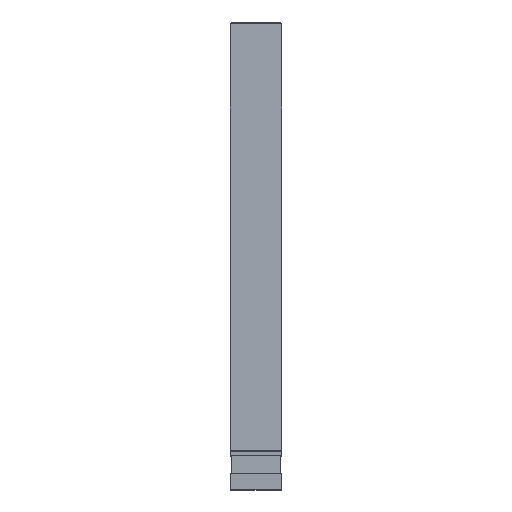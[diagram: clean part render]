
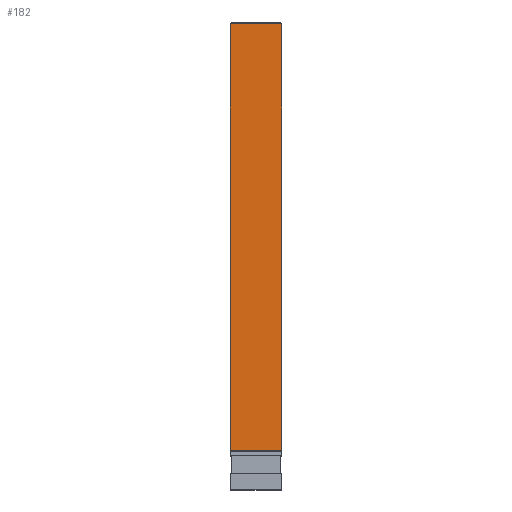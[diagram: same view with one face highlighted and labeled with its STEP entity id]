
A CAD part, left-side view. The second image highlights one B-rep face of the part: STEP entity #182.
In plain terms, the highlighted planar face has unit normal (-1, 0, 0.009).
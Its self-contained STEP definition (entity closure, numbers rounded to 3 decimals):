
#23=DIRECTION('',(0.009,0.,1.));
#24=VECTOR('',#23,910.);
#25=CARTESIAN_POINT('',(-5.407,0.5,-631.37));
#26=LINE('',#25,#24);
#27=DIRECTION('',(0.,-1.,0.));
#28=VECTOR('',#27,109.);
#29=CARTESIAN_POINT('',(2.383,109.5,278.596));
#30=LINE('',#29,#28);
#31=DIRECTION('',(0.,1.,0.));
#32=VECTOR('',#31,109.);
#33=CARTESIAN_POINT('',(-5.407,0.5,-631.37));
#34=LINE('',#33,#32);
#40=DIRECTION('',(-0.009,0.,-1.));
#41=VECTOR('',#40,910.);
#42=CARTESIAN_POINT('',(2.383,109.5,278.596));
#43=LINE('',#42,#41);
#113=CARTESIAN_POINT('',(2.383,0.5,278.596));
#114=VERTEX_POINT('',#113);
#115=CARTESIAN_POINT('',(-5.407,0.5,
-631.37));
#116=VERTEX_POINT('',#115);
#117=CARTESIAN_POINT('',(2.383,109.5,278.596));
#118=VERTEX_POINT('',#117);
#119=CARTESIAN_POINT('',(-5.407,109.5,-631.37));
#120=VERTEX_POINT('',#119);
#168=CARTESIAN_POINT('',(2.383,0.,278.596));
#169=DIRECTION('',(-1.,0.,0.009));
#170=DIRECTION('',(0.,1.,0.));
#171=AXIS2_PLACEMENT_3D('',#168,#169,#170);
#172=PLANE('',#171);
#174=ORIENTED_EDGE('',*,*,#173,.F.);
#176=ORIENTED_EDGE('',*,*,#175,.T.);
#177=ORIENTED_EDGE('',*,*,#163,.F.);
#179=ORIENTED_EDGE('',*,*,#178,.T.);
#180=EDGE_LOOP('',(#174,#176,#177,#179));
#181=FACE_OUTER_BOUND('',#180,.F.);
#182=ADVANCED_FACE('',(#181),#172,.T.);
#163=EDGE_CURVE('',#116,#114,#26,.T.);
#173=EDGE_CURVE('',#118,#120,#43,.T.);
#175=EDGE_CURVE('',#118,#114,#30,.T.);
#178=EDGE_CURVE('',#116,#120,#34,.T.);
